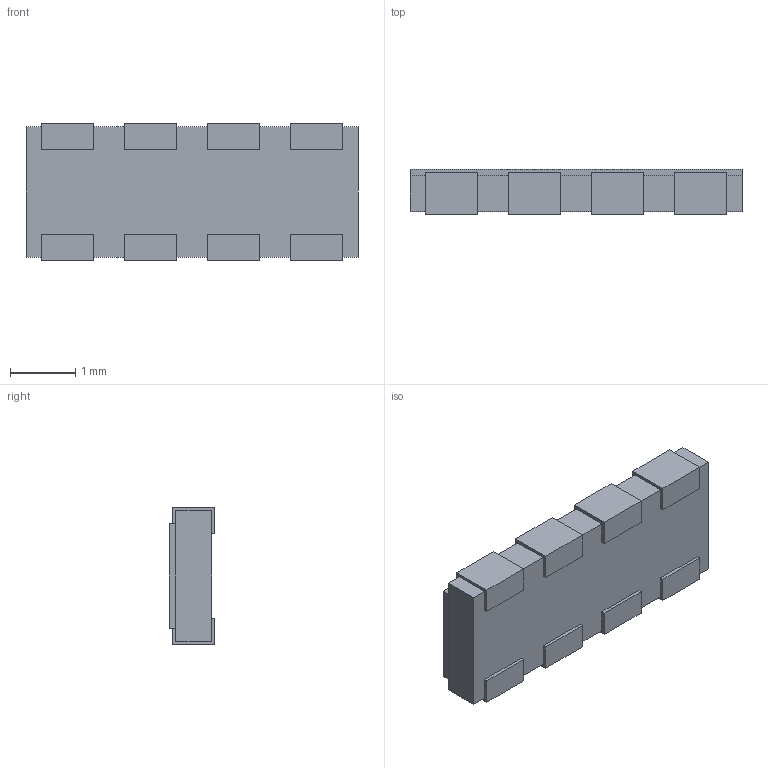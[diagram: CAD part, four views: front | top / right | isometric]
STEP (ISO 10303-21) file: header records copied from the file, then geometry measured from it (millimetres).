
FILE_DESCRIPTION (( 'STEP AP214' ), '1' );
FILE_NAME ( 'RESCAV8P127_508X200X70L40X80.STEP', '2021-10-06T06:49:14', ( '' ), ( '' ), '', '©2017 PCB Libraries, Inc.', '' );
FILE_SCHEMA (( 'AUTOMOTIVE_DESIGN' ));
Length unit declared in the file: millimetre
Products named in the file (1): RESCAV8P127_508X200X70L40X80
Bounding box: 5.08 x 0.7 x 2.1 mm (x, y, z)
Volume: 6.8 mm3; surface area: 62.7 mm2
Topology: 10 solids, 10 shells, 92 faces, 216 edges, 144 vertices
Faces by surface type: plane 92
Entity records: 2953 total; most frequent: CARTESIAN_POINT 453, ORIENTED_EDGE 432, DIRECTION 402, VECTOR 216, LINE 216, EDGE_CURVE 216, VERTEX_POINT 144, STYLED_ITEM 103
